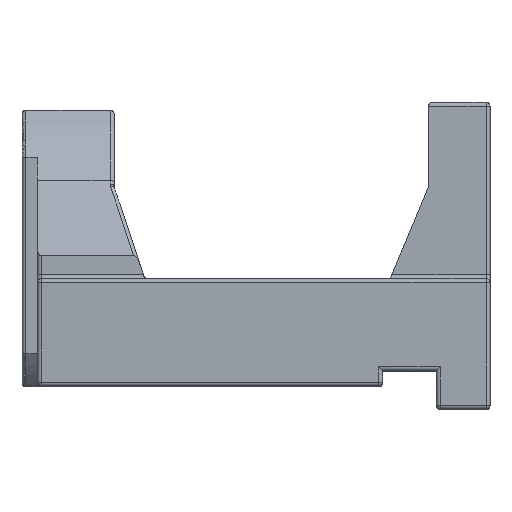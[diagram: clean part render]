
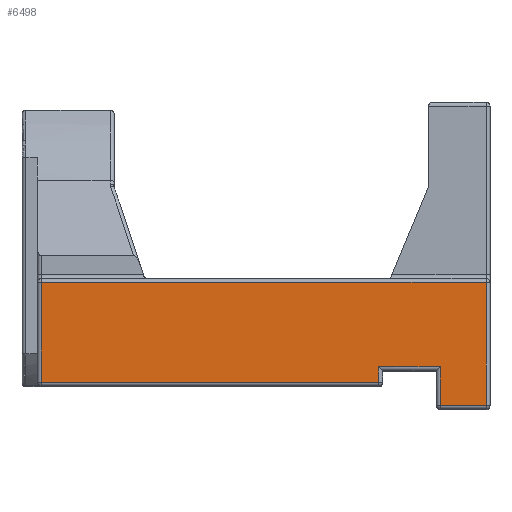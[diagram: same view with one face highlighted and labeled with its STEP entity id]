
A CAD part, top view. The second image highlights one B-rep face of the part: STEP entity #6498.
In plain terms, the highlighted planar face has unit normal (0, 0, 1).
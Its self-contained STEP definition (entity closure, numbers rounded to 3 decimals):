
#140 = CARTESIAN_POINT ( 'NONE',  ( -6.5, -19.5, 26. ) ) ;
#179 = VECTOR ( 'NONE', #7282, 1000. ) ;
#619 = ORIENTED_EDGE ( 'NONE', *, *, #6875, .T. ) ;
#643 = VERTEX_POINT ( 'NONE', #4621 ) ;
#770 = VERTEX_POINT ( 'NONE', #4064 ) ;
#919 = VERTEX_POINT ( 'NONE', #3478 ) ;
#1048 = EDGE_CURVE ( 'NONE', #5896, #2977, #6791, .T. ) ;
#1191 = ORIENTED_EDGE ( 'NONE', *, *, #7826, .T. ) ;
#1293 = ORIENTED_EDGE ( 'NONE', *, *, #2279, .T. ) ;
#1460 = DIRECTION ( 'NONE',  ( 0., 0., -1. ) ) ;
#1469 = ORIENTED_EDGE ( 'NONE', *, *, #1048, .T. ) ;
#1509 = DIRECTION ( 'NONE',  ( -1., 0., 0. ) ) ;
#1579 = DIRECTION ( 'NONE',  ( 0., 1., 0. ) ) ;
#1659 = CARTESIAN_POINT ( 'NONE',  ( -0.5, -3., 26. ) ) ;
#1661 = CARTESIAN_POINT ( 'NONE',  ( -59., -3., 26. ) ) ;
#1675 = EDGE_CURVE ( 'NONE', #3949, #919, #1996, .T. ) ;
#1705 = DIRECTION ( 'NONE',  ( 0., 1., 0. ) ) ;
#1854 = ORIENTED_EDGE ( 'NONE', *, *, #2890, .T. ) ;
#1996 = LINE ( 'NONE', #7452, #179 ) ;
#2279 = EDGE_CURVE ( 'NONE', #919, #5896, #4881, .T. ) ;
#2287 = CARTESIAN_POINT ( 'NONE',  ( -14.5, -3., 26. ) ) ;
#2339 = FACE_OUTER_BOUND ( 'NONE', #4422, .T. ) ;
#2343 = VERTEX_POINT ( 'NONE', #7323 ) ;
#2436 = LINE ( 'NONE', #1659, #5498 ) ;
#2698 = LINE ( 'NONE', #2287, #5761 ) ;
#2702 = PLANE ( 'NONE',  #6475 ) ;
#2718 = LINE ( 'NONE', #4593, #4155 ) ;
#2883 = DIRECTION ( 'NONE',  ( 1., 0., 0. ) ) ;
#2890 = EDGE_CURVE ( 'NONE', #770, #643, #6960, .T. ) ;
#2895 = CARTESIAN_POINT ( 'NONE',  ( 0., -19.5, 26. ) ) ;
#2977 = VERTEX_POINT ( 'NONE', #3822 ) ;
#3009 = DIRECTION ( 'NONE',  ( 1., 0., 0. ) ) ;
#3068 = VECTOR ( 'NONE', #7645, 1000. ) ;
#3070 = CARTESIAN_POINT ( 'NONE',  ( -59., -16.5, 26. ) ) ;
#3203 = LINE ( 'NONE', #3070, #4626 ) ;
#3331 = ORIENTED_EDGE ( 'NONE', *, *, #6267, .T. ) ;
#3378 = CARTESIAN_POINT ( 'NONE',  ( -14.5, -14.5, 26. ) ) ;
#3478 = CARTESIAN_POINT ( 'NONE',  ( -6.5, -14.5, 26. ) ) ;
#3822 = CARTESIAN_POINT ( 'NONE',  ( -0.5, -19.5, 26. ) ) ;
#3949 = VERTEX_POINT ( 'NONE', #3378 ) ;
#4064 = CARTESIAN_POINT ( 'NONE',  ( -0.5, -3.5, 26. ) ) ;
#4070 = ORIENTED_EDGE ( 'NONE', *, *, #7078, .T. ) ;
#4155 = VECTOR ( 'NONE', #4568, 1000. ) ;
#4370 = CARTESIAN_POINT ( 'NONE',  ( -59., -3.5, 26. ) ) ;
#4422 = EDGE_LOOP ( 'NONE', ( #1854, #619, #4070, #1191, #5229, #1293, #1469, #3331 ) ) ;
#4535 = CARTESIAN_POINT ( 'NONE',  ( -58.5, -16.5, 26. ) ) ;
#4537 = DIRECTION ( 'NONE',  ( -1., 0., 0. ) ) ;
#4568 = DIRECTION ( 'NONE',  ( 0., -1., 0. ) ) ;
#4593 = CARTESIAN_POINT ( 'NONE',  ( -58.5, -3., 26. ) ) ;
#4621 = CARTESIAN_POINT ( 'NONE',  ( -58.5, -3.5, 26. ) ) ;
#4626 = VECTOR ( 'NONE', #3009, 1000. ) ;
#4881 = LINE ( 'NONE', #7518, #3068 ) ;
#5229 = ORIENTED_EDGE ( 'NONE', *, *, #1675, .T. ) ;
#5498 = VECTOR ( 'NONE', #1579, 1000. ) ;
#5629 = VERTEX_POINT ( 'NONE', #4535 ) ;
#5761 = VECTOR ( 'NONE', #1705, 1000. ) ;
#5896 = VERTEX_POINT ( 'NONE', #140 ) ;
#6220 = VECTOR ( 'NONE', #2883, 1000. ) ;
#6267 = EDGE_CURVE ( 'NONE', #2977, #770, #2436, .T. ) ;
#6475 = AXIS2_PLACEMENT_3D ( 'NONE', #1661, #1460, #1509 ) ;
#6498 = ADVANCED_FACE ( 'NONE', ( #2339 ), #2702, .F. ) ;
#6791 = LINE ( 'NONE', #2895, #6220 ) ;
#6875 = EDGE_CURVE ( 'NONE', #643, #5629, #2718, .T. ) ;
#6960 = LINE ( 'NONE', #4370, #7636 ) ;
#7078 = EDGE_CURVE ( 'NONE', #5629, #2343, #3203, .T. ) ;
#7282 = DIRECTION ( 'NONE',  ( 1., 0., 0. ) ) ;
#7323 = CARTESIAN_POINT ( 'NONE',  ( -14.5, -16.5, 26. ) ) ;
#7452 = CARTESIAN_POINT ( 'NONE',  ( -59., -14.5, 26. ) ) ;
#7518 = CARTESIAN_POINT ( 'NONE',  ( -6.5, -3., 26. ) ) ;
#7636 = VECTOR ( 'NONE', #4537, 1000. ) ;
#7645 = DIRECTION ( 'NONE',  ( 0., -1., 0. ) ) ;
#7826 = EDGE_CURVE ( 'NONE', #2343, #3949, #2698, .T. ) ;
